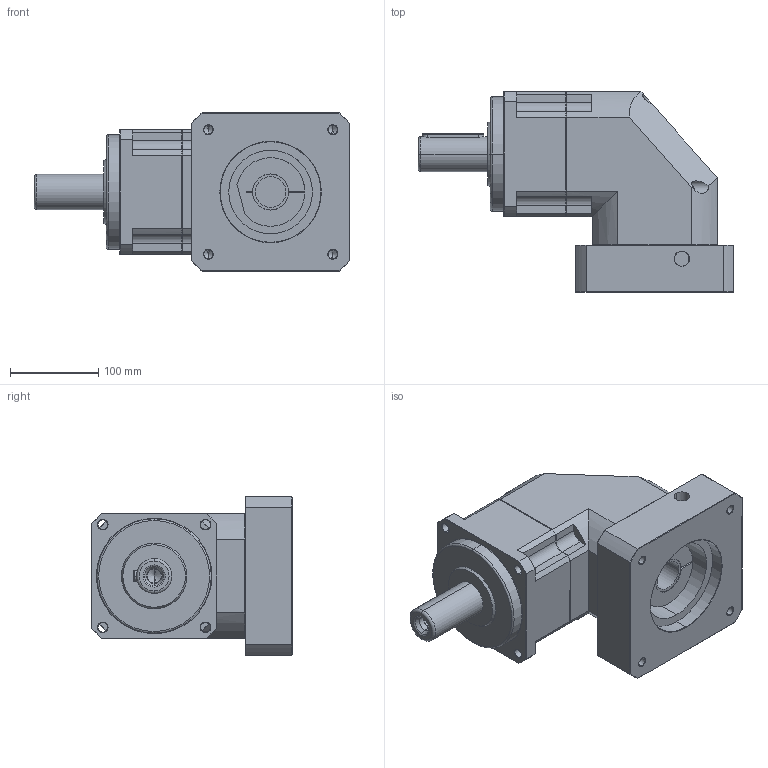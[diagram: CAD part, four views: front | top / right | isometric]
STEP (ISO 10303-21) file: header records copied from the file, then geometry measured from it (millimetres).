
FILE_DESCRIPTION (( 'STEP AP203' ), '1' );
FILE_NAME ('TBR142-L1-35-114.3-200-M12-97-15.STEP', '2020-11-26T03:09:51', ( '' ), ( '' ), 'SwSTEP 2.0', 'SolidWorks 2017', '' );
FILE_SCHEMA (( 'CONFIG_CONTROL_DESIGN' ));
Length unit declared in the file: millimetre
Products named in the file (1): TBR142-L1-35-114.3-200-M12-97-15
Bounding box: 358.5 x 228 x 180 mm (x, y, z)
Volume: 6090128.4 mm3; surface area: 346099.9 mm2
Topology: 4 solids, 4 shells, 355 faces, 836 edges, 495 vertices
Faces by surface type: plane 129, cylinder 118, cone 98, torus 10
Entity records: 10409 total; most frequent: CARTESIAN_POINT 2315, DIRECTION 1728, ORIENTED_EDGE 1628, EDGE_CURVE 814, AXIS2_PLACEMENT_3D 674, VERTEX_POINT 495, EDGE_LOOP 395, VECTOR 380
